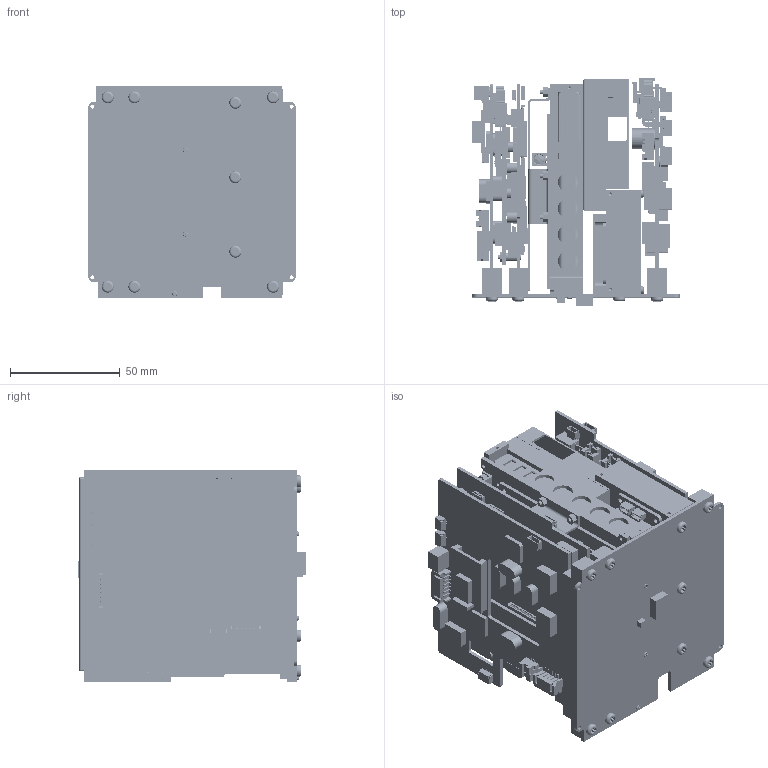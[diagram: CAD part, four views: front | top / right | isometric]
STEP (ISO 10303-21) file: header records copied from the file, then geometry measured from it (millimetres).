
FILE_DESCRIPTION((''),'2;1');
FILE_NAME('SYSTEM_ASM_ASM','2020-03-13T',('g0715'),(''),'PRO/ENGINEER BY PARAMETRIC TECHNOLOGY CORPORATION, 2014090','PRO/ENGINEER BY PARAMETRIC TECHNOLOGY CORPORATION, 2014090','');
FILE_SCHEMA(('CONFIG_CONTROL_DESIGN'));
Products named in the file (139): MOTHER_BOARD_AF0; BATTERY_BOX; BATTERY_CGA-E_111; NISIMUSENN_TX_NORMAL; RECEIVER_BOX; RECIVER_BOX_LID; RECIVER_ASM; 7542_1; 7542_2; 7542_3; MCX_RF_ASM; S12B-PH-K-S; NISHIMUSENN_ASM; BATTERY_BOX_LID_2012_6_1; TORAPON_BOARD; TRAPON_COVER_N; NEZI_M2_L5; NUT_M2; BATTERYBOX_LID_ASM; BATTERY_BOX_ASM; SLOT_A_AF0; NEZI_M3; SLOT_A; C_BOARD_NEXUS; BD4834; CMS04; SM02B-PASS; B2PS-VH; SM09B-SRSS-TB; 2SA1451A; EMR422K; SM04B-SRSS-TB; ATK109; 10UH; LT1371; MBRS320; LTC3533; 6_8UH; BD4837; SM05B-SRSS-TB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
Assembly tree (277 placements, depth 5):
  SYSTEM_ASM_ASM
    MOTHER_BOARD_AF0
    BATTERY_BOX_ASM
      BATTERY_BOX
      BATTERY_CGA-E_111  x4
      NISHIMUSENN_ASM
        NISIMUSENN_TX_NORMAL
        RECIVER_ASM
          RECEIVER_BOX
          RECIVER_BOX_LID
        MCX_RF_ASM  x3
          7542_1
          7542_2
          7542_3
        S12B-PH-K-S
      BATTERYBOX_LID_ASM
        BATTERY_BOX_LID_2012_6_1
        TORAPON_BOARD
        TRAPON_COVER_N
        NEZI_M2_L5  x8
        NUT_M2  x16
      MCX_RF_ASM
        7542_1
        7542_2
        7542_3
    SLOT_A_AF0
    NEZI_M3  x7
    SLOT_A  x2
    C_BOARD_ASM_ASM
      C_BOARD_NEXUS
      BD4834
      CMS04  x4
      SM02B-PASS  x10
      B2PS-VH  x4
      SM09B-SRSS-TB
      2SA1451A
      EMR422K
      SM04B-SRSS-TB  x4
      ATK109  x5
      10UH  x3
      LT1371  x3
      MBRS320  x3
      LTC3533
      6_8UH
      BD4837
      SM05B-SRSS-TB  x2
      MM1433
      20MHZ
      PIC16F877
      VH-2N
    A_BOARD_NEXUS_AF0
    QPSK_TRANSMITER_ASM
      QPSK_CASING_VER2
      HIGHSPEED_RES2
      QPSK_BOARD
      RF_CONECTOR
      NEZI_M2_L4  x18
      FSK_BOARD
      BM04B-SRSS-TB
      PRT0006
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Bounding box: 94.8 x 103.8 x 97 mm (x, y, z)
Volume: 303131.9 mm3; surface area: 324548.3 mm2
Topology: 270 solids, 334 shells, 13356 faces, 35866 edges, 23522 vertices
Faces by surface type: plane 11249, cylinder 1625, cone 214, torus 132, bspline 56, sphere 34, extrusion 30, revolution 16
Entity records: 263382 total; most frequent: CARTESIAN_POINT 50807, ORIENTED_EDGE 44002, DIRECTION 42005, EDGE_CURVE 22123, VECTOR 19199, LINE 19171, VERTEX_POINT 14544, AXIS2_PLACEMENT_3D 11395
